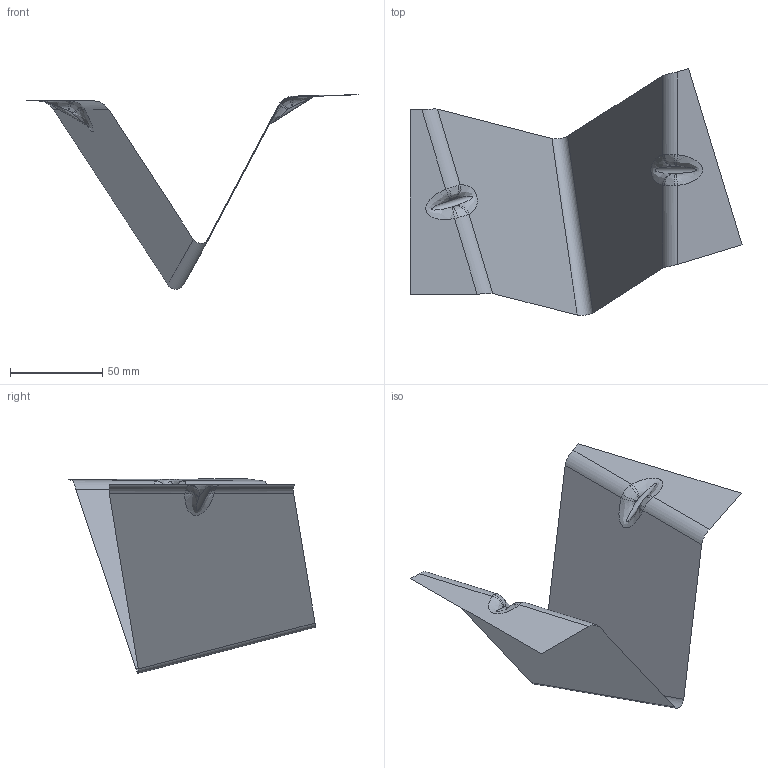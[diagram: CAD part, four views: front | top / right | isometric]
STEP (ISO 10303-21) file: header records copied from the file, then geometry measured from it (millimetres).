
FILE_DESCRIPTION(('CATIA V5 STEP Exchange'),'2;1');
FILE_NAME('C:\_Andres\UNIVERSIDAD\IQS\ASIGNATURAS\DAO\EXF\EXF-16172c\2inicio\Uria_Ciurana_Ej03_v35.stp','2017-03-05T19:32:35+00:00',('none'),('none'),'CATIA Version 5-6 Release 2014 SP1 HF18','CATIA V5 STEP AP203','none');
FILE_SCHEMA(('CONFIG_CONTROL_DESIGN'));
Length unit declared in the file: millimetre
Products named in the file (1): Uria_Ciurana_Ej03_v35
Bounding box: 180.05 x 133.82 x 105.49 mm (x, y, z)
Surface area: 27471.7 mm2 (no closed solid volume)
Topology: 0 solids, 1 shells, 31 faces, 78 edges, 48 vertices
Faces by surface type: bspline 16, plane 8, cylinder 7
Entity records: 2911 total; most frequent: CARTESIAN_POINT 2306, ORIENTED_EDGE 140, EDGE_CURVE 78, DIRECTION 52, B_SPLINE_CURVE_WITH_KNOTS 52, VERTEX_POINT 48, ADVANCED_FACE 31, EDGE_LOOP 31
